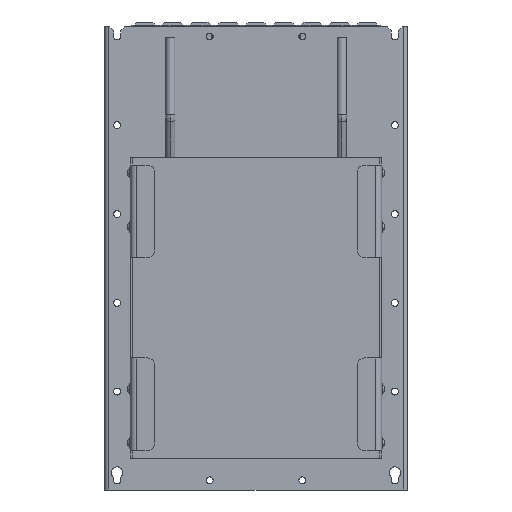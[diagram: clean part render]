
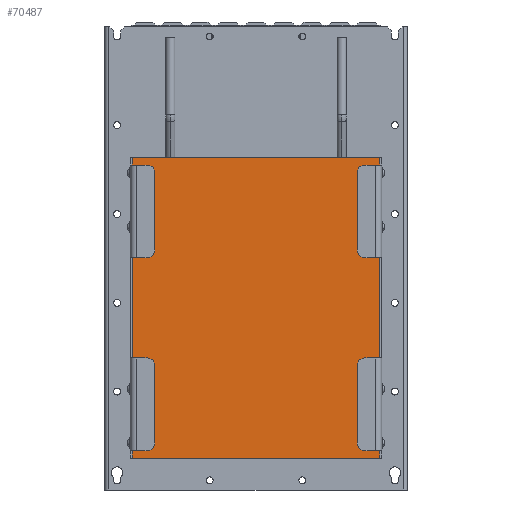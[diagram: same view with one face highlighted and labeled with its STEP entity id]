
A CAD part, front view. The second image highlights one B-rep face of the part: STEP entity #70487.
In plain terms, the highlighted planar face has unit normal (0, -1, 0).
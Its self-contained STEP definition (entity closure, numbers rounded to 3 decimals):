
#1935 = CARTESIAN_POINT ( 'NONE',  ( -160., -25., 51. ) ) ;
#3436 = VECTOR ( 'NONE', #47030, 1000. ) ;
#4486 = VERTEX_POINT ( 'NONE', #17440 ) ;
#4912 = CARTESIAN_POINT ( 'NONE',  ( -160., -25., 41. ) ) ;
#6932 = EDGE_CURVE ( 'NONE', #87685, #23948, #77927, .T. ) ;
#7419 = ORIENTED_EDGE ( 'NONE', *, *, #61791, .T. ) ;
#9387 = EDGE_CURVE ( 'NONE', #87277, #87685, #39428, .T. ) ;
#10277 = CARTESIAN_POINT ( 'NONE',  ( -160., -25., 41. ) ) ;
#10346 = VERTEX_POINT ( 'NONE', #91480 ) ;
#10612 = CARTESIAN_POINT ( 'NONE',  ( -160., -25., 41. ) ) ;
#11257 = VECTOR ( 'NONE', #88185, 1000. ) ;
#12612 = CARTESIAN_POINT ( 'NONE',  ( 0., -25., 41. ) ) ;
#13113 = DIRECTION ( 'NONE',  ( 0., -1., 0. ) ) ;
#14457 = VERTEX_POINT ( 'NONE', #62108 ) ;
#14498 = ORIENTED_EDGE ( 'NONE', *, *, #9387, .T. ) ;
#14832 = DIRECTION ( 'NONE',  ( 0., 0., 1. ) ) ;
#17361 = EDGE_CURVE ( 'NONE', #44062, #45449, #44200, .T. ) ;
#17440 = CARTESIAN_POINT ( 'NONE',  ( 160., -25., 51. ) ) ;
#17655 = VECTOR ( 'NONE', #83438, 1000. ) ;
#20298 = CARTESIAN_POINT ( 'NONE',  ( 160., -25., 41. ) ) ;
#20396 = ORIENTED_EDGE ( 'NONE', *, *, #17361, .T. ) ;
#22257 = AXIS2_PLACEMENT_3D ( 'NONE', #12612, #13113, #60835 ) ;
#22308 = VECTOR ( 'NONE', #14832, 1000. ) ;
#22729 = CARTESIAN_POINT ( 'NONE',  ( 160., -25., 431. ) ) ;
#23057 = ORIENTED_EDGE ( 'NONE', *, *, #59738, .T. ) ;
#23068 = LINE ( 'NONE', #53845, #22308 ) ;
#23370 = CARTESIAN_POINT ( 'NONE',  ( 160., -25., 301. ) ) ;
#23948 = VERTEX_POINT ( 'NONE', #30544 ) ;
#24269 = ORIENTED_EDGE ( 'NONE', *, *, #6932, .T. ) ;
#24543 = DIRECTION ( 'NONE',  ( 0., 0., -1. ) ) ;
#26576 = LINE ( 'NONE', #56344, #69332 ) ;
#28515 = LINE ( 'NONE', #20298, #17655 ) ;
#30114 = CARTESIAN_POINT ( 'NONE',  ( 160., -25., 41. ) ) ;
#30227 = CARTESIAN_POINT ( 'NONE',  ( -160., -25., 421. ) ) ;
#30544 = CARTESIAN_POINT ( 'NONE',  ( -160., -25., 301. ) ) ;
#30650 = EDGE_CURVE ( 'NONE', #45449, #10346, #68617, .T. ) ;
#31850 = VERTEX_POINT ( 'NONE', #97720 ) ;
#33063 = EDGE_CURVE ( 'NONE', #36762, #87277, #26576, .T. ) ;
#33650 = ORIENTED_EDGE ( 'NONE', *, *, #92542, .T. ) ;
#33900 = ORIENTED_EDGE ( 'NONE', *, *, #51154, .T. ) ;
#36606 = CARTESIAN_POINT ( 'NONE',  ( -160., -25., 41. ) ) ;
#36720 = PLANE ( 'NONE',  #22257 ) ;
#36762 = VERTEX_POINT ( 'NONE', #22729 ) ;
#39428 = LINE ( 'NONE', #53331, #72250 ) ;
#42176 = DIRECTION ( 'NONE',  ( 0., 0., 1. ) ) ;
#42374 = CARTESIAN_POINT ( 'NONE',  ( 160., -25., 41. ) ) ;
#43515 = ORIENTED_EDGE ( 'NONE', *, *, #30650, .T. ) ;
#44062 = VERTEX_POINT ( 'NONE', #100302 ) ;
#44177 = EDGE_LOOP ( 'NONE', ( #7419, #48262, #23057, #20396, #43515, #33650, #90325, #14498, #24269, #74242, #33900, #91809 ) ) ;
#44200 = LINE ( 'NONE', #51365, #79517 ) ;
#45449 = VERTEX_POINT ( 'NONE', #23370 ) ;
#46704 = LINE ( 'NONE', #36606, #81443 ) ;
#47030 = DIRECTION ( 'NONE',  ( 0., 0., 1. ) ) ;
#47640 = CARTESIAN_POINT ( 'NONE',  ( -160., -25., 41. ) ) ;
#48262 = ORIENTED_EDGE ( 'NONE', *, *, #65081, .T. ) ;
#51154 = EDGE_CURVE ( 'NONE', #31850, #63585, #64184, .T. ) ;
#51365 = CARTESIAN_POINT ( 'NONE',  ( 160., -25., 41. ) ) ;
#53331 = CARTESIAN_POINT ( 'NONE',  ( -160., -25., 41. ) ) ;
#53844 = DIRECTION ( 'NONE',  ( 0., 0., -1. ) ) ;
#53845 = CARTESIAN_POINT ( 'NONE',  ( 160., -25., 41. ) ) ;
#55659 = CARTESIAN_POINT ( 'NONE',  ( -160., -25., 431. ) ) ;
#56344 = CARTESIAN_POINT ( 'NONE',  ( -160., -25., 431. ) ) ;
#57007 = DIRECTION ( 'NONE',  ( 0., 0., -1. ) ) ;
#58272 = DIRECTION ( 'NONE',  ( 0., 0., 1. ) ) ;
#59738 = EDGE_CURVE ( 'NONE', #4486, #44062, #97234, .T. ) ;
#60835 = DIRECTION ( 'NONE',  ( 1., 0., 0. ) ) ;
#61791 = EDGE_CURVE ( 'NONE', #62813, #14457, #63550, .T. ) ;
#62108 = CARTESIAN_POINT ( 'NONE',  ( 160., -25., 41. ) ) ;
#62813 = VERTEX_POINT ( 'NONE', #10612 ) ;
#63550 = LINE ( 'NONE', #47640, #11257 ) ;
#63585 = VERTEX_POINT ( 'NONE', #1935 ) ;
#64184 = LINE ( 'NONE', #10277, #69055 ) ;
#65081 = EDGE_CURVE ( 'NONE', #14457, #4486, #28515, .T. ) ;
#68617 = LINE ( 'NONE', #30114, #3436 ) ;
#69055 = VECTOR ( 'NONE', #57007, 1000. ) ;
#69332 = VECTOR ( 'NONE', #89149, 1000. ) ;
#70487 = ADVANCED_FACE ( 'NONE', ( #75253 ), #36720, .T. ) ;
#72250 = VECTOR ( 'NONE', #53844, 1000. ) ;
#74242 = ORIENTED_EDGE ( 'NONE', *, *, #95235, .T. ) ;
#75253 = FACE_OUTER_BOUND ( 'NONE', #44177, .T. ) ;
#77538 = DIRECTION ( 'NONE',  ( 0., 0., -1. ) ) ;
#77927 = LINE ( 'NONE', #94816, #96632 ) ;
#78217 = VECTOR ( 'NONE', #58272, 1000. ) ;
#79517 = VECTOR ( 'NONE', #42176, 1000. ) ;
#81428 = EDGE_CURVE ( 'NONE', #63585, #62813, #98865, .T. ) ;
#81443 = VECTOR ( 'NONE', #77538, 1000. ) ;
#81474 = VECTOR ( 'NONE', #91687, 1000. ) ;
#83438 = DIRECTION ( 'NONE',  ( 0., 0., 1. ) ) ;
#87277 = VERTEX_POINT ( 'NONE', #55659 ) ;
#87685 = VERTEX_POINT ( 'NONE', #30227 ) ;
#88185 = DIRECTION ( 'NONE',  ( 1., 0., 0. ) ) ;
#89149 = DIRECTION ( 'NONE',  ( -1., 0., 0. ) ) ;
#90325 = ORIENTED_EDGE ( 'NONE', *, *, #33063, .T. ) ;
#91480 = CARTESIAN_POINT ( 'NONE',  ( 160., -25., 421. ) ) ;
#91687 = DIRECTION ( 'NONE',  ( 0., 0., -1. ) ) ;
#91809 = ORIENTED_EDGE ( 'NONE', *, *, #81428, .T. ) ;
#92542 = EDGE_CURVE ( 'NONE', #10346, #36762, #23068, .T. ) ;
#94816 = CARTESIAN_POINT ( 'NONE',  ( -160., -25., 41. ) ) ;
#95235 = EDGE_CURVE ( 'NONE', #23948, #31850, #46704, .T. ) ;
#96632 = VECTOR ( 'NONE', #24543, 1000. ) ;
#97234 = LINE ( 'NONE', #42374, #78217 ) ;
#97720 = CARTESIAN_POINT ( 'NONE',  ( -160., -25., 171. ) ) ;
#98865 = LINE ( 'NONE', #4912, #81474 ) ;
#100302 = CARTESIAN_POINT ( 'NONE',  ( 160., -25., 171. ) ) ;
